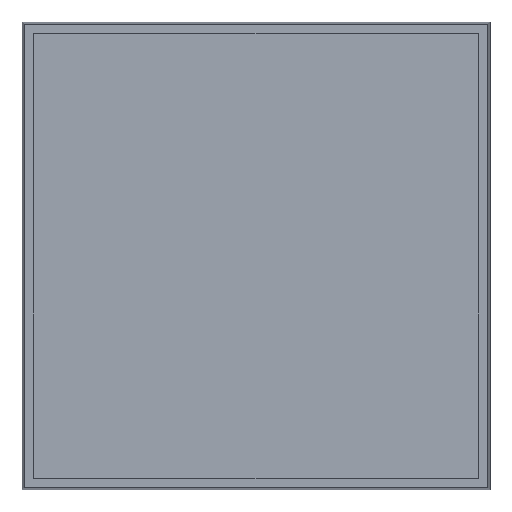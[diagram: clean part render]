
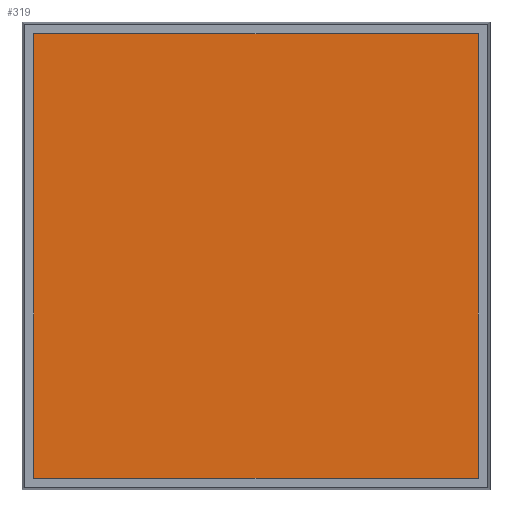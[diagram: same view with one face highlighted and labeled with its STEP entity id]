
A CAD part, top view. The second image highlights one B-rep face of the part: STEP entity #319.
In plain terms, the highlighted planar face has unit normal (0, 0, 1).
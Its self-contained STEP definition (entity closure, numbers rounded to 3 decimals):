
#12 = AXIS2_PLACEMENT_3D ( 'NONE', #22, #341, #1652 ) ;
#22 = CARTESIAN_POINT ( 'NONE',  ( 0., 0., 133.354 ) ) ;
#29 = VERTEX_POINT ( 'NONE', #2446 ) ;
#135 = EDGE_CURVE ( 'NONE', #1299, #751, #548, .T. ) ;
#140 = ORIENTED_EDGE ( 'NONE', *, *, #1983, .T. ) ;
#193 = EDGE_CURVE ( 'NONE', #29, #655, #1813, .T. ) ;
#211 = FACE_OUTER_BOUND ( 'NONE', #2174, .T. ) ;
#270 = ORIENTED_EDGE ( 'NONE', *, *, #135, .F. ) ;
#289 = DIRECTION ( 'NONE',  ( -1., 0., 0. ) ) ;
#319 = ADVANCED_FACE ( 'NONE', ( #211 ), #982, .T. ) ;
#341 = DIRECTION ( 'NONE',  ( 0., 0., 1. ) ) ;
#548 = LINE ( 'NONE', #1321, #1063 ) ;
#601 = CARTESIAN_POINT ( 'NONE',  ( 13.345, -36.718, 133.354 ) ) ;
#606 = CARTESIAN_POINT ( 'NONE',  ( -77.833, -36.718, 133.354 ) ) ;
#655 = VERTEX_POINT ( 'NONE', #1736 ) ;
#676 = CARTESIAN_POINT ( 'NONE',  ( 13.345, 54.439, 133.354 ) ) ;
#751 = VERTEX_POINT ( 'NONE', #2198 ) ;
#940 = VECTOR ( 'NONE', #289, 1000. ) ;
#982 = PLANE ( 'NONE',  #12 ) ;
#1003 = LINE ( 'NONE', #601, #1829 ) ;
#1063 = VECTOR ( 'NONE', #2072, 1000. ) ;
#1070 = LINE ( 'NONE', #676, #940 ) ;
#1299 = VERTEX_POINT ( 'NONE', #606 ) ;
#1321 = CARTESIAN_POINT ( 'NONE',  ( -77.833, -36.74, 133.354 ) ) ;
#1505 = CARTESIAN_POINT ( 'NONE',  ( 13.324, -36.74, 133.354 ) ) ;
#1514 = DIRECTION ( 'NONE',  ( 0., -1., 0. ) ) ;
#1542 = VECTOR ( 'NONE', #1514, 1000. ) ;
#1652 = DIRECTION ( 'NONE',  ( 1., 0., 0. ) ) ;
#1736 = CARTESIAN_POINT ( 'NONE',  ( 13.324, -36.718, 133.354 ) ) ;
#1775 = DIRECTION ( 'NONE',  ( 1., 0., 0. ) ) ;
#1782 = EDGE_CURVE ( 'NONE', #1299, #655, #1003, .T. ) ;
#1813 = LINE ( 'NONE', #1505, #1542 ) ;
#1829 = VECTOR ( 'NONE', #1775, 1000. ) ;
#1930 = ORIENTED_EDGE ( 'NONE', *, *, #193, .F. ) ;
#1983 = EDGE_CURVE ( 'NONE', #29, #751, #1070, .T. ) ;
#2072 = DIRECTION ( 'NONE',  ( 0., 1., 0. ) ) ;
#2133 = ORIENTED_EDGE ( 'NONE', *, *, #1782, .T. ) ;
#2174 = EDGE_LOOP ( 'NONE', ( #1930, #140, #270, #2133 ) ) ;
#2198 = CARTESIAN_POINT ( 'NONE',  ( -77.833, 54.439, 133.354 ) ) ;
#2446 = CARTESIAN_POINT ( 'NONE',  ( 13.324, 54.439, 133.354 ) ) ;
